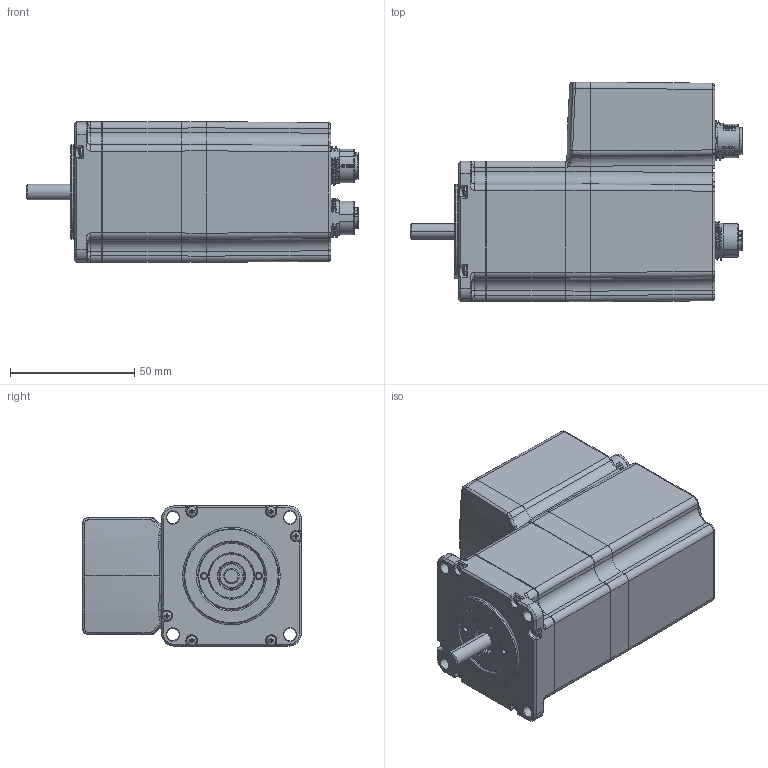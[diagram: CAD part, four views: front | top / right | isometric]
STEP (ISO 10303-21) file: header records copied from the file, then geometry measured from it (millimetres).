
FILE_DESCRIPTION((''),'2;1');
FILE_NAME('STEPPERASSY_ASM','2022-09-17T14:58:46',('Administrator'),(''),'CREO PARAMETRIC BY PTC INC, 2022014','CREO PARAMETRIC BY PTC INC, 2022014','');
FILE_SCHEMA(('AUTOMOTIVE_DESIGN { 1 0 10303 214 1 1 1 1 }'));
Products named in the file (8): FRONT_CAP_1; STATOR; AXIAL_CON; SHAFT_1; LOCK_NUT_1; SEALING_1; FAST_S; STEPPERASSY_ASM
Assembly tree (12 placements, depth 2):
  STEPPERASSY_ASM
    FRONT_CAP_1
    STATOR
    AXIAL_CON
    SHAFT_1
    LOCK_NUT_1
    SEALING_1
    FAST_S  x6
Bounding box: 133.7 x 88.42 x 56.67 mm (x, y, z)
Volume: 383914.4 mm3; surface area: 56889.5 mm2
Topology: 13 solids, 14 shells, 2054 faces, 5108 edges, 3167 vertices
Faces by surface type: plane 769, cylinder 576, bspline 266, cone 222, torus 186, sphere 33, extrusion 2
Entity records: 101482 total; most frequent: CARTESIAN_POINT 35199, ORIENTED_EDGE 9120, DIRECTION 8761, PRESENTATION_STYLE_ASSIGNMENT 4916, EDGE_CURVE 4562, STYLED_ITEM 4288, CURVE_STYLE 4062, AXIS2_PLACEMENT_3D 3259
